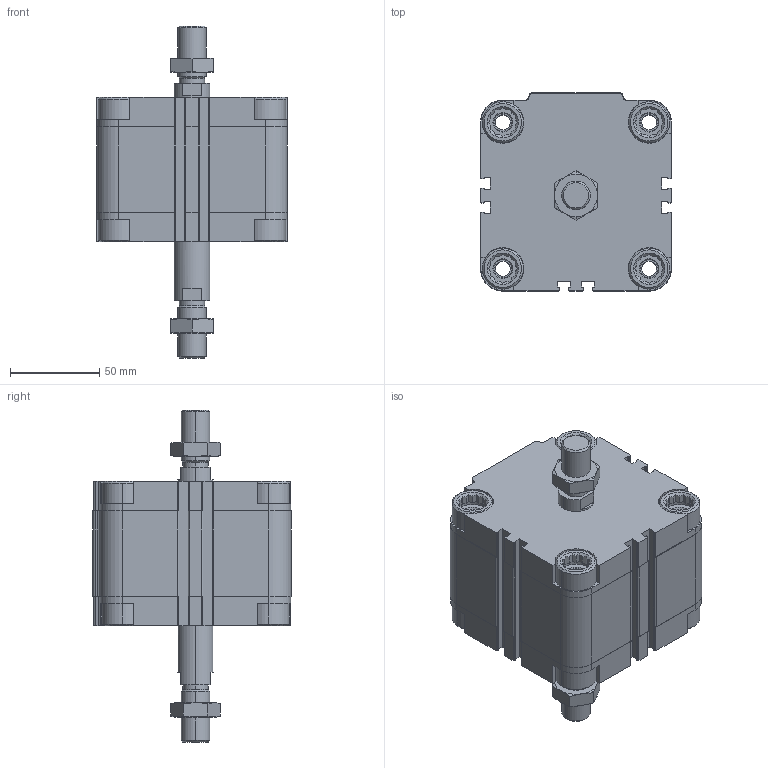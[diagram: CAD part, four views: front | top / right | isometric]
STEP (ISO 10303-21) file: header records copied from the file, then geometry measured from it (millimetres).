
FILE_DESCRIPTION (( 'STEP AP203' ), '1' );
FILE_NAME ('CDVU80-25M-P.STEP', '2020-07-21T15:25:05', ( '' ), ( '' ), 'SwSTEP 2.0', 'SolidWorks 2019', '' );
FILE_SCHEMA (( 'CONFIG_CONTROL_DESIGN' ));
Length unit declared in the file: millimetre
Products named in the file (1): CDVU80-25M-P
Bounding box: 107 x 111 x 186 mm (x, y, z)
Volume: 779070.3 mm3; surface area: 129315.9 mm2
Topology: 4 solids, 4 shells, 706 faces, 1888 edges, 1234 vertices
Faces by surface type: plane 410, cylinder 216, cone 80
Entity records: 22967 total; most frequent: CARTESIAN_POINT 5177, ORIENTED_EDGE 3768, DIRECTION 3610, EDGE_CURVE 1884, AXIS2_PLACEMENT_3D 1235, VERTEX_POINT 1234, LINE 1140, VECTOR 1140
